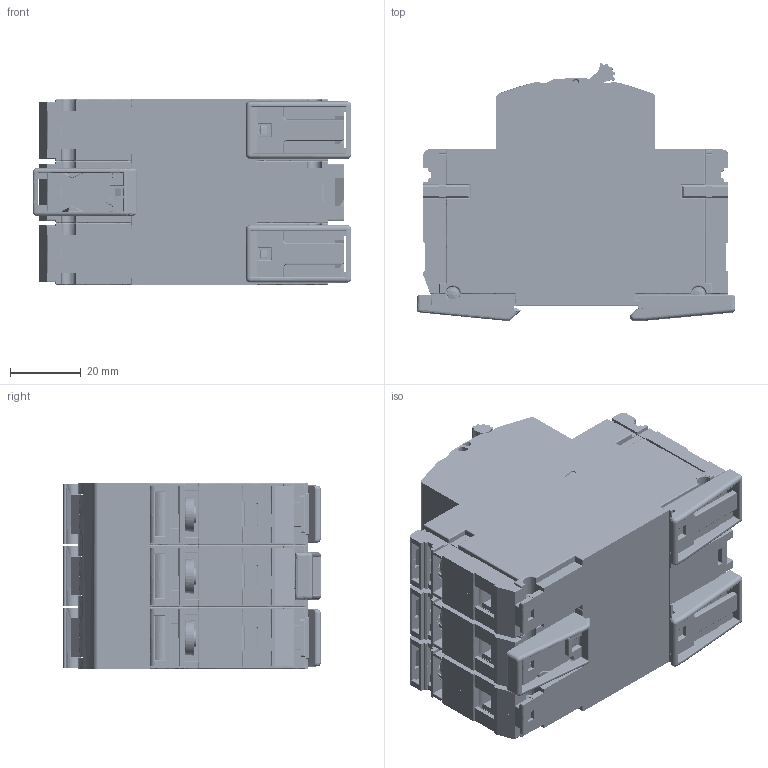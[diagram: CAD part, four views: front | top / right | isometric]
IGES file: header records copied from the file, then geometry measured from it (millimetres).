
Start section: SolidWorks IGES file using analytic representation for surfaces
Global section: file name: U:\14_RD\05_Technical_office\04_Office\Hrdinova\3D modely - IGES\Minia\APN-3.IGS; native system: SolidWorks 2011; preprocessor: SolidWorks 2011; author: adhrja3; date: 170615.070708; units: millimetre
Bounding box: 90.21 x 72.92 x 52.6 mm (x, y, z)
Surface area: 48413.5 mm2 (no closed solid volume)
Topology: 0 solids, 0 shells, 4761 faces, 34449 edges, 34321 vertices
Faces by surface type: bspline 3203, revolution 1558
